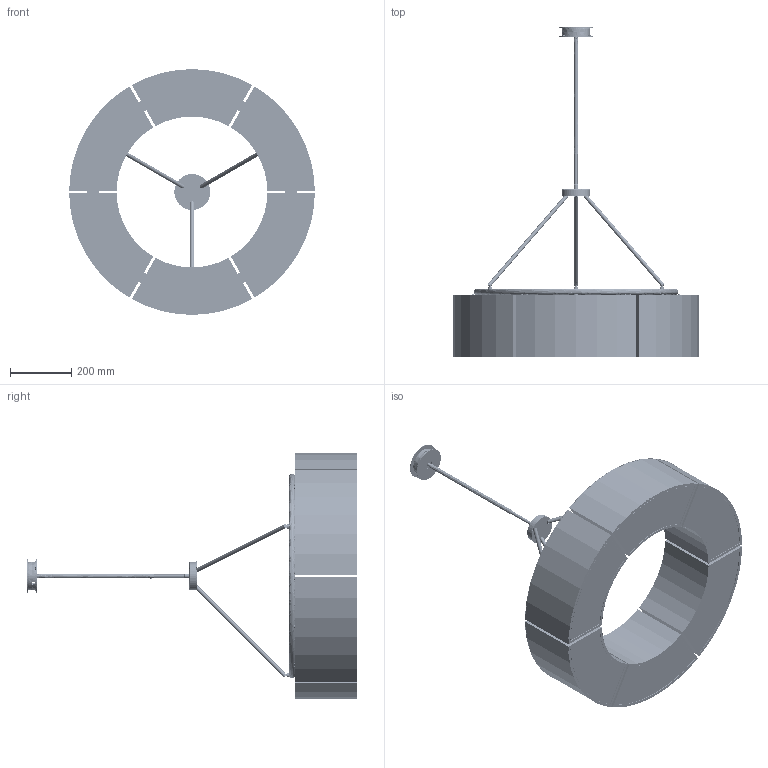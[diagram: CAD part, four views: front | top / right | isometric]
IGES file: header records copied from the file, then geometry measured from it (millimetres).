
Start section: SolidWorks IGES file using analytic representation for surfaces
Global section: file name: C:\Users\berta.gumma\OneDrive - santa &cole\Desktop\sexta ul.IGS; native system: SolidWorks 2021; preprocessor: SolidWorks 2021; author: berta.gumma; date: 230912.121423; units: millimetre
Bounding box: 798.95 x 1073.43 x 799 mm (x, y, z)
Surface area: 3949068.3 mm2 (no closed solid volume)
Topology: 0 solids, 0 shells, 4752 faces, 51381 edges, 51381 vertices
Faces by surface type: revolution 3200, bspline 1552
